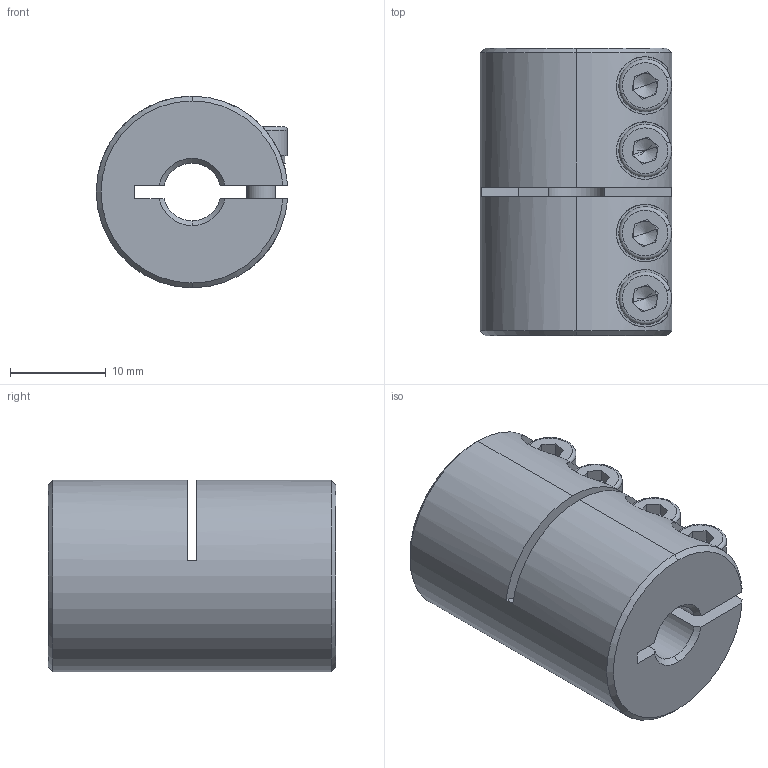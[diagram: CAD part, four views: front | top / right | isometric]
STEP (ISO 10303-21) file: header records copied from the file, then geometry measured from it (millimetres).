
FILE_DESCRIPTION (( 'STEP AP203' ), '1' );
FILE_NAME ('LL-B-D20L30-6-6.STEP', '2021-11-05T03:10:24', ( '' ), ( '' ), 'SwSTEP 2.0', 'SolidWorks 2018', '' );
FILE_SCHEMA (( 'CONFIG_CONTROL_DESIGN' ));
Length unit declared in the file: millimetre
Products named in the file (1): LL-B-D20L30-6-6
Bounding box: 19.98 x 30 x 20 mm (x, y, z)
Volume: 7873.2 mm3; surface area: 4534.4 mm2
Topology: 1 solids, 1 shells, 173 faces, 444 edges, 277 vertices
Faces by surface type: plane 87, cylinder 58, cone 20, torus 8
Entity records: 5650 total; most frequent: CARTESIAN_POINT 1319, DIRECTION 927, ORIENTED_EDGE 872, EDGE_CURVE 436, AXIS2_PLACEMENT_3D 357, VERTEX_POINT 277, LINE 213, VECTOR 213
